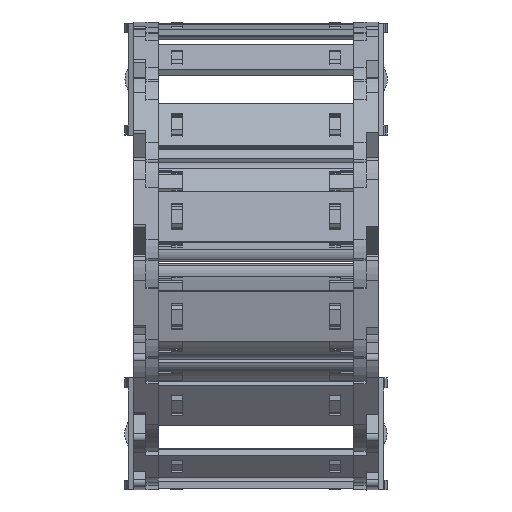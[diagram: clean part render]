
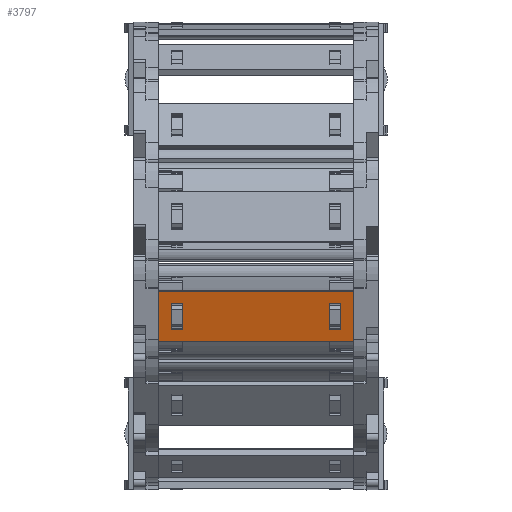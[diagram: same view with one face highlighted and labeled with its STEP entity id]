
A CAD part, top view. The second image highlights one B-rep face of the part: STEP entity #3797.
In plain terms, the highlighted planar face has unit normal (0, -0.259, 0.966) as drawn and (0, 1, 0) by its records, which use the part's own axes.
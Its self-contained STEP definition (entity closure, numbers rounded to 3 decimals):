
#2923=DIRECTION('',(0.,0.,1.));
#2924=VECTOR('',#2923,15.8);
#2925=CARTESIAN_POINT('',(45.74,1.5,-7.9));
#2926=LINE('',#2925,#2924);
#2930=DIRECTION('',(-1.,0.,0.));
#2931=VECTOR('',#2930,60.5);
#2932=CARTESIAN_POINT('',(45.74,1.5,7.9));
#2933=LINE('',#2932,#2931);
#2937=DIRECTION('',(0.,0.,-1.));
#2938=VECTOR('',#2937,15.8);
#2939=CARTESIAN_POINT('',(-14.76,1.5,7.9));
#2940=LINE('',#2939,#2938);
#2944=DIRECTION('',(1.,0.,0.));
#2945=VECTOR('',#2944,3.648);
#2946=CARTESIAN_POINT('',(38.122,1.5,4.075));
#2947=LINE('',#2946,#2945);
#2951=DIRECTION('',(0.,0.,-1.));
#2952=VECTOR('',#2951,8.15);
#2953=CARTESIAN_POINT('',(41.77,1.5,4.075));
#2954=LINE('',#2953,#2952);
#2958=DIRECTION('',(-1.,0.,0.));
#2959=VECTOR('',#2958,3.648);
#2960=CARTESIAN_POINT('',(41.77,1.5,-4.075));
#2961=LINE('',#2960,#2959);
#2965=DIRECTION('',(0.,0.,-1.));
#2966=VECTOR('',#2965,8.15);
#2967=CARTESIAN_POINT('',(-7.142,1.5,4.075));
#2968=LINE('',#2967,#2966);
#2972=DIRECTION('',(-1.,0.,0.));
#2973=VECTOR('',#2972,3.648);
#2974=CARTESIAN_POINT('',(-7.142,1.5,-4.075));
#2975=LINE('',#2974,#2973);
#2979=DIRECTION('',(0.,0.,1.));
#2980=VECTOR('',#2979,8.15);
#2981=CARTESIAN_POINT('',(-10.79,1.5,-4.075));
#2982=LINE('',#2981,#2980);
#2986=DIRECTION('',(1.,0.,0.));
#2987=VECTOR('',#2986,3.648);
#2988=CARTESIAN_POINT('',(-10.79,1.5,4.075));
#2989=LINE('',#2988,#2987);
#3000=DIRECTION('',(-1.,0.,0.));
#3001=VECTOR('',#3000,60.5);
#3002=CARTESIAN_POINT('',(45.74,1.5,-7.9));
#3003=LINE('',#3002,#3001);
#3208=DIRECTION('',(0.,0.,-1.));
#3209=VECTOR('',#3208,8.15);
#3210=CARTESIAN_POINT('',(38.122,1.5,4.075));
#3211=LINE('',#3210,#3209);
#3507=CARTESIAN_POINT('',(41.77,1.5,4.075));
#3508=VERTEX_POINT('',#3507);
#3509=CARTESIAN_POINT('',(38.122,1.5,4.075));
#3510=VERTEX_POINT('',#3509);
#3551=CARTESIAN_POINT('',(38.122,1.5,-4.075));
#3552=VERTEX_POINT('',#3551);
#3553=CARTESIAN_POINT('',(41.77,1.5,-4.075));
#3554=VERTEX_POINT('',#3553);
#3555=CARTESIAN_POINT('',(45.74,1.5,7.9));
#3557=VERTEX_POINT('',#3555);
#3559=CARTESIAN_POINT('',(45.74,1.5,-7.9));
#3560=VERTEX_POINT('',#3559);
#3583=CARTESIAN_POINT('',(-7.142,1.5,4.075));
#3584=CARTESIAN_POINT('',(-7.142,1.5,-4.075));
#3585=VERTEX_POINT('',#3583);
#3586=VERTEX_POINT('',#3584);
#3587=CARTESIAN_POINT('',(-10.79,1.5,-4.075));
#3588=VERTEX_POINT('',#3587);
#3589=CARTESIAN_POINT('',(-10.79,1.5,4.075));
#3590=VERTEX_POINT('',#3589);
#3591=CARTESIAN_POINT('',(-14.76,1.5,7.9));
#3592=VERTEX_POINT('',#3591);
#3595=CARTESIAN_POINT('',(-14.76,1.5,-7.9));
#3596=VERTEX_POINT('',#3595);
#3766=CARTESIAN_POINT('',(77.48,1.5,10.061));
#3767=DIRECTION('',(0.,-1.,0.));
#3768=DIRECTION('',(0.,0.,-1.));
#3769=AXIS2_PLACEMENT_3D('',#3766,#3767,#3768);
#3770=PLANE('',#3769);
#3771=ORIENTED_EDGE('',*,*,#3669,.T.);
#3772=ORIENTED_EDGE('',*,*,#3707,.T.);
#3773=ORIENTED_EDGE('',*,*,#3732,.T.);
#3775=ORIENTED_EDGE('',*,*,#3774,.F.);
#3776=EDGE_LOOP('',(#3771,#3772,#3773,#3775));
#3777=FACE_OUTER_BOUND('',#3776,.F.);
#3779=ORIENTED_EDGE('',*,*,#3778,.F.);
#3780=ORIENTED_EDGE('',*,*,#3608,.T.);
#3782=ORIENTED_EDGE('',*,*,#3781,.T.);
#3784=ORIENTED_EDGE('',*,*,#3783,.T.);
#3785=EDGE_LOOP('',(#3779,#3780,#3782,#3784));
#3786=FACE_BOUND('',#3785,.F.);
#3788=ORIENTED_EDGE('',*,*,#3787,.T.);
#3790=ORIENTED_EDGE('',*,*,#3789,.T.);
#3792=ORIENTED_EDGE('',*,*,#3791,.T.);
#3794=ORIENTED_EDGE('',*,*,#3793,.T.);
#3795=EDGE_LOOP('',(#3788,#3790,#3792,#3794));
#3796=FACE_BOUND('',#3795,.F.);
#3797=ADVANCED_FACE('',(#3777,#3786,#3796),#3770,.F.);
#3608=EDGE_CURVE('',#3510,#3508,#2947,.T.);
#3669=EDGE_CURVE('',#3560,#3557,#2926,.T.);
#3707=EDGE_CURVE('',#3557,#3592,#2933,.T.);
#3732=EDGE_CURVE('',#3592,#3596,#2940,.T.);
#3774=EDGE_CURVE('',#3560,#3596,#3003,.T.);
#3778=EDGE_CURVE('',#3510,#3552,#3211,.T.);
#3781=EDGE_CURVE('',#3508,#3554,#2954,.T.);
#3783=EDGE_CURVE('',#3554,#3552,#2961,.T.);
#3787=EDGE_CURVE('',#3585,#3586,#2968,.T.);
#3789=EDGE_CURVE('',#3586,#3588,#2975,.T.);
#3791=EDGE_CURVE('',#3588,#3590,#2982,.T.);
#3793=EDGE_CURVE('',#3590,#3585,#2989,.T.);
